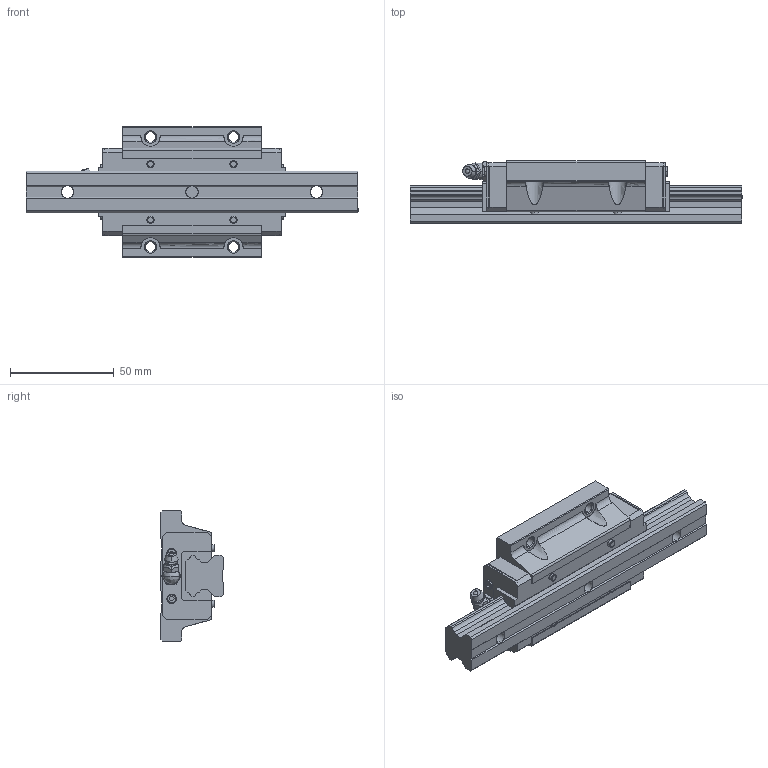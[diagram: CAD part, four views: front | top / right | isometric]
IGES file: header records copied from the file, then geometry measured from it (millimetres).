
Start section: SolidWorks IGES file using analytic representation for surfaces
Global section: file name: D:\Qsync\EOS Design B.V\Projecten\LM Systems\Models HSV\FINISHED\HSR20LCSSC.IGS; native system: SolidWorks 2016; preprocessor: SolidWorks 2016; author: EOS; date: 160329.132943; units: millimetre
Bounding box: 160 x 30 x 63 mm (x, y, z)
Surface area: 34506.8 mm2 (no closed solid volume)
Topology: 0 solids, 0 shells, 318 faces, 3438 edges, 3428 vertices
Faces by surface type: bspline 216, revolution 102
